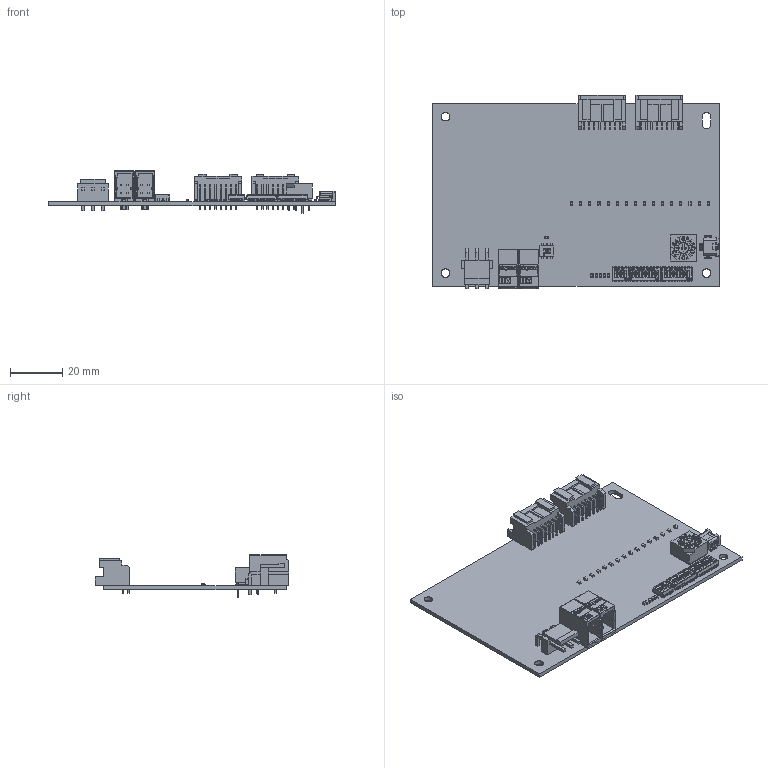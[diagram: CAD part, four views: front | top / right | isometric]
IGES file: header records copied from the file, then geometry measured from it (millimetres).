
Start section: SolidWorks IGES file using analytic representation for surfaces
Bounding box: 110 x 74.15 x 16.3 mm (x, y, z)
Surface area: 24396.9 mm2 (no closed solid volume)
Topology: 0 solids, 0 shells, 3689 faces, 25776 edges, 25776 vertices
Faces by surface type: bspline 2892, revolution 797
